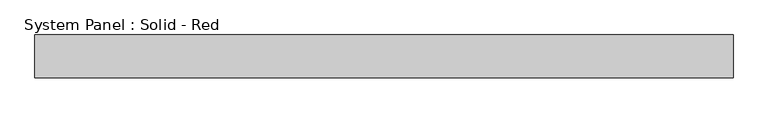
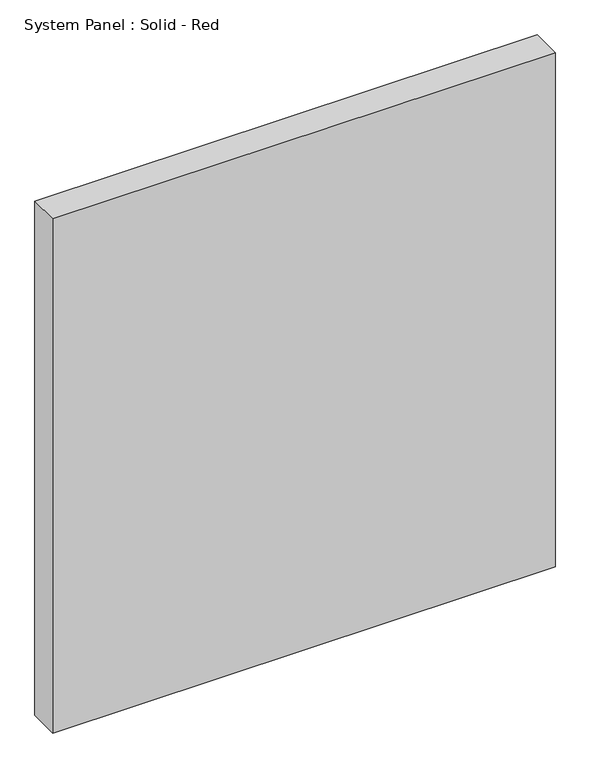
"""IFC4 building model written with IfcOpenShell, lengths in millimetres: plate geometry, System Panel : Solid - Red."""

from ifc_helpers import new_model, si_unit, origin, origin_with_axes, place, context, project, spatial, polyline, outline, extrude, source, transform, mapped, element, save


def system_panel_solid_red_a342d3c4(model_context):
    return source(origin(), model_context, "Body", "SweptSolid", [
        extrude(outline(polyline([(519.3392857, -19.05), (-519.3392857, -19.05), (-519.3392857, 44.45), (519.3392857, 44.45), (519.3392857, -19.05)])), origin_with_axes(), (0.0, 0.0, 1.0), 1123.95),
    ])


if __name__ == "__main__":
    model = new_model("IFC4")
    model_context = context("Model", 3, world=origin())
    ifc_project = project(units=[si_unit("LENGTHUNIT", "METRE", prefix="MILLI")], contexts=[model_context])
    site = spatial("IfcSite", under=ifc_project)
    building = spatial("IfcBuilding", under=site)
    placement = place(None, origin())
    system_panel_solid_red_shape = system_panel_solid_red_a342d3c4(model_context)
    element("IfcPlate", 1, ObjectType="System Panel : Solid - Red", at=placement, inside=building, context=model_context, shape_type="MappedRepresentation", body=[
        mapped(system_panel_solid_red_shape, transform((0.0, 0.0, 0.0), x_axis=(1.0, 0.0, 0.0), y_axis=(0.0, 1.0, 0.0), z_axis=(0.0, 0.0, 1.0))),
    ])
    save(model, "model.ifc")
